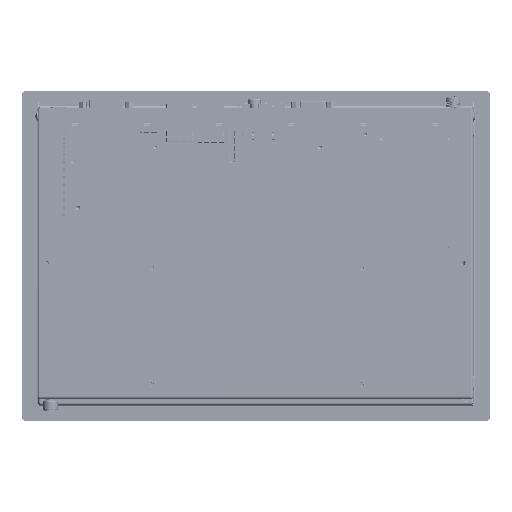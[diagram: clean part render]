
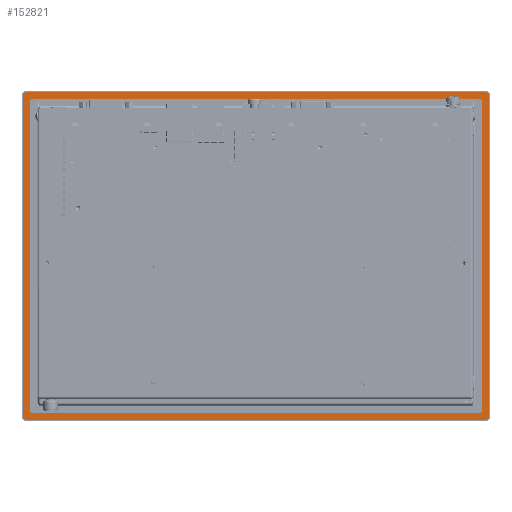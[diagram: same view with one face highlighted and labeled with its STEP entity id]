
A CAD part, front view. The second image highlights one B-rep face of the part: STEP entity #152821.
In plain terms, the highlighted planar face has unit normal (0, -1, 0).
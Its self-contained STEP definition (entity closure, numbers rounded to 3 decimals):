
#4720 = DIRECTION ( 'NONE',  ( -1., 0., 0. ) ) ;
#8256 = VECTOR ( 'NONE', #352208, 1000. ) ;
#14096 = EDGE_CURVE ( 'NONE', #96230, #76708, #340170, .T. ) ;
#60387 = CARTESIAN_POINT ( 'NONE',  ( -162.5, 0.5, -109. ) ) ;
#62388 = VERTEX_POINT ( 'NONE', #471969 ) ;
#66878 = CIRCLE ( 'NONE', #105146, 1. ) ;
#73734 = CARTESIAN_POINT ( 'NONE',  ( -159.5, 0.5, 115. ) ) ;
#75661 = CIRCLE ( 'NONE', #737921, 1. ) ;
#75851 = VERTEX_POINT ( 'NONE', #191438 ) ;
#76708 = VERTEX_POINT ( 'NONE', #175290 ) ;
#80631 = ORIENTED_EDGE ( 'NONE', *, *, #275251, .F. ) ;
#83807 = CARTESIAN_POINT ( 'NONE',  ( -162.5, 0.5, 121. ) ) ;
#86904 = VERTEX_POINT ( 'NONE', #394944 ) ;
#91783 = AXIS2_PLACEMENT_3D ( 'NONE', #60387, #673187, #301436 ) ;
#96230 = VERTEX_POINT ( 'NONE', #224740 ) ;
#104605 = DIRECTION ( 'NONE',  ( 0., 0., 1. ) ) ;
#105146 = AXIS2_PLACEMENT_3D ( 'NONE', #548703, #491696, #120217 ) ;
#116483 = CARTESIAN_POINT ( 'NONE',  ( 158.5, 0.5, 115. ) ) ;
#117572 = DIRECTION ( 'NONE',  ( 0., 0., 1. ) ) ;
#118538 = EDGE_CURVE ( 'NONE', #618070, #86904, #684649, .T. ) ;
#120217 = DIRECTION ( 'NONE',  ( 0., 0., 1. ) ) ;
#121489 = CARTESIAN_POINT ( 'NONE',  ( -158.5, 0.5, -105. ) ) ;
#122716 = CARTESIAN_POINT ( 'NONE',  ( 162.5, 0.5, 121. ) ) ;
#131905 = VECTOR ( 'NONE', #668370, 1000. ) ;
#133997 = CARTESIAN_POINT ( 'NONE',  ( 162.5, 0.5, -111. ) ) ;
#134767 = ORIENTED_EDGE ( 'NONE', *, *, #235238, .F. ) ;
#138748 = PLANE ( 'NONE',  #514246 ) ;
#143863 = DIRECTION ( 'NONE',  ( 0., 0., -1. ) ) ;
#149320 = EDGE_CURVE ( 'NONE', #150023, #75851, #761743, .T. ) ;
#150023 = VERTEX_POINT ( 'NONE', #331447 ) ;
#152821 = ADVANCED_FACE ( 'NONE', ( #563966, #282079 ), #138748, .T. ) ;
#163956 = ORIENTED_EDGE ( 'NONE', *, *, #403384, .F. ) ;
#175290 = CARTESIAN_POINT ( 'NONE',  ( -162.5, 0.5, -111. ) ) ;
#182380 = ORIENTED_EDGE ( 'NONE', *, *, #239661, .F. ) ;
#187100 = ORIENTED_EDGE ( 'NONE', *, *, #590378, .F. ) ;
#191438 = CARTESIAN_POINT ( 'NONE',  ( 159.5, 0.5, 115. ) ) ;
#197361 = DIRECTION ( 'NONE',  ( 0., -1., 0. ) ) ;
#201009 = CARTESIAN_POINT ( 'NONE',  ( 0., 0.5, 0. ) ) ;
#202709 = CARTESIAN_POINT ( 'NONE',  ( 158.5, 0.5, 116. ) ) ;
#212632 = CARTESIAN_POINT ( 'NONE',  ( 164.5, 0.5, -109. ) ) ;
#217638 = ORIENTED_EDGE ( 'NONE', *, *, #487833, .F. ) ;
#224740 = CARTESIAN_POINT ( 'NONE',  ( 162.5, 0.5, -111. ) ) ;
#235238 = EDGE_CURVE ( 'NONE', #62388, #518872, #332645, .T. ) ;
#239661 = EDGE_CURVE ( 'NONE', #587083, #245976, #489863, .T. ) ;
#242998 = CARTESIAN_POINT ( 'NONE',  ( 162.5, 0.5, -109. ) ) ;
#245976 = VERTEX_POINT ( 'NONE', #212632 ) ;
#252546 = EDGE_CURVE ( 'NONE', #343523, #374891, #496196, .T. ) ;
#254013 = DIRECTION ( 'NONE',  ( 0., -1., 0. ) ) ;
#254328 = CARTESIAN_POINT ( 'NONE',  ( -159.5, 0.5, -105. ) ) ;
#260333 = ORIENTED_EDGE ( 'NONE', *, *, #14096, .F. ) ;
#260451 = CARTESIAN_POINT ( 'NONE',  ( 158.5, 0.5, -105. ) ) ;
#266360 = CIRCLE ( 'NONE', #568337, 1. ) ;
#275251 = EDGE_CURVE ( 'NONE', #465652, #394398, #638582, .T. ) ;
#282079 = FACE_OUTER_BOUND ( 'NONE', #468795, .T. ) ;
#301436 = DIRECTION ( 'NONE',  ( 0., 0., -1. ) ) ;
#309855 = ORIENTED_EDGE ( 'NONE', *, *, #759802, .F. ) ;
#311324 = DIRECTION ( 'NONE',  ( 1., 0., 0. ) ) ;
#315321 = VECTOR ( 'NONE', #733017, 1000. ) ;
#315932 = DIRECTION ( 'NONE',  ( 0., 1., 0. ) ) ;
#320855 = DIRECTION ( 'NONE',  ( -1., 0., 0. ) ) ;
#322500 = CARTESIAN_POINT ( 'NONE',  ( -164.5, 0.5, -109. ) ) ;
#324380 = EDGE_CURVE ( 'NONE', #518872, #587083, #364672, .T. ) ;
#325583 = DIRECTION ( 'NONE',  ( -1., 0., 0. ) ) ;
#331447 = CARTESIAN_POINT ( 'NONE',  ( 159.5, 0.5, -105. ) ) ;
#332645 = LINE ( 'NONE', #83807, #779592 ) ;
#340170 = LINE ( 'NONE', #133997, #544296 ) ;
#343523 = VERTEX_POINT ( 'NONE', #322500 ) ;
#345032 = DIRECTION ( 'NONE',  ( 1., 0., 0. ) ) ;
#350217 = EDGE_CURVE ( 'NONE', #354107, #768028, #568487, .T. ) ;
#352208 = DIRECTION ( 'NONE',  ( -1., 0., 0. ) ) ;
#352821 = AXIS2_PLACEMENT_3D ( 'NONE', #242998, #315932, #373102 ) ;
#354107 = VERTEX_POINT ( 'NONE', #73734 ) ;
#356352 = CARTESIAN_POINT ( 'NONE',  ( -159.5, 0.5, 115. ) ) ;
#362775 = AXIS2_PLACEMENT_3D ( 'NONE', #116483, #197361, #311324 ) ;
#363789 = ORIENTED_EDGE ( 'NONE', *, *, #118538, .F. ) ;
#364672 = CIRCLE ( 'NONE', #662273, 2. ) ;
#373102 = DIRECTION ( 'NONE',  ( 1., 0., 0. ) ) ;
#374891 = VERTEX_POINT ( 'NONE', #790514 ) ;
#394398 = VERTEX_POINT ( 'NONE', #730636 ) ;
#394944 = CARTESIAN_POINT ( 'NONE',  ( 158.5, 0.5, -106. ) ) ;
#398908 = VECTOR ( 'NONE', #117572, 1000. ) ;
#403384 = EDGE_CURVE ( 'NONE', #245976, #96230, #773168, .T. ) ;
#409690 = ORIENTED_EDGE ( 'NONE', *, *, #350217, .F. ) ;
#414478 = ORIENTED_EDGE ( 'NONE', *, *, #538263, .F. ) ;
#429292 = CARTESIAN_POINT ( 'NONE',  ( -164.5, 0.5, -109. ) ) ;
#431636 = CARTESIAN_POINT ( 'NONE',  ( 164.5, 0.5, 119. ) ) ;
#434023 = EDGE_LOOP ( 'NONE', ( #363789, #187100, #409690, #414478, #80631, #217638, #483502, #599417 ) ) ;
#446591 = CARTESIAN_POINT ( 'NONE',  ( 159.5, 0.5, -105. ) ) ;
#463986 = EDGE_CURVE ( 'NONE', #86904, #150023, #266360, .T. ) ;
#465652 = VERTEX_POINT ( 'NONE', #202709 ) ;
#468795 = EDGE_LOOP ( 'NONE', ( #182380, #740769, #134767, #309855, #792457, #510734, #260333, #163956 ) ) ;
#471969 = CARTESIAN_POINT ( 'NONE',  ( -162.5, 0.5, 121. ) ) ;
#483502 = ORIENTED_EDGE ( 'NONE', *, *, #149320, .F. ) ;
#487833 = EDGE_CURVE ( 'NONE', #75851, #465652, #715294, .T. ) ;
#489863 = LINE ( 'NONE', #491616, #315321 ) ;
#491616 = CARTESIAN_POINT ( 'NONE',  ( 164.5, 0.5, 119. ) ) ;
#491696 = DIRECTION ( 'NONE',  ( 0., -1., 0. ) ) ;
#496196 = LINE ( 'NONE', #429292, #398908 ) ;
#510734 = ORIENTED_EDGE ( 'NONE', *, *, #587099, .F. ) ;
#514246 = AXIS2_PLACEMENT_3D ( 'NONE', #201009, #697398, #325583 ) ;
#518872 = VERTEX_POINT ( 'NONE', #122716 ) ;
#538263 = EDGE_CURVE ( 'NONE', #394398, #354107, #66878, .T. ) ;
#541074 = CARTESIAN_POINT ( 'NONE',  ( 162.5, 0.5, 119. ) ) ;
#544296 = VECTOR ( 'NONE', #320855, 1000. ) ;
#548703 = CARTESIAN_POINT ( 'NONE',  ( -158.5, 0.5, 115. ) ) ;
#551903 = DIRECTION ( 'NONE',  ( 0., 1., 0. ) ) ;
#554555 = CARTESIAN_POINT ( 'NONE',  ( -162.5, 0.5, 119. ) ) ;
#560760 = DIRECTION ( 'NONE',  ( 0., 0., 1. ) ) ;
#563966 = FACE_BOUND ( 'NONE', #434023, .T. ) ;
#568337 = AXIS2_PLACEMENT_3D ( 'NONE', #260451, #694522, #143863 ) ;
#568487 = LINE ( 'NONE', #356352, #131905 ) ;
#587083 = VERTEX_POINT ( 'NONE', #431636 ) ;
#587099 = EDGE_CURVE ( 'NONE', #76708, #343523, #713057, .T. ) ;
#590378 = EDGE_CURVE ( 'NONE', #768028, #618070, #75661, .T. ) ;
#596857 = VECTOR ( 'NONE', #560760, 1000. ) ;
#599417 = ORIENTED_EDGE ( 'NONE', *, *, #463986, .F. ) ;
#602905 = CARTESIAN_POINT ( 'NONE',  ( -158.5, 0.5, -106. ) ) ;
#606767 = VECTOR ( 'NONE', #345032, 1000. ) ;
#614302 = DIRECTION ( 'NONE',  ( -1., 0., 0. ) ) ;
#618070 = VERTEX_POINT ( 'NONE', #602905 ) ;
#638582 = LINE ( 'NONE', #661563, #8256 ) ;
#661563 = CARTESIAN_POINT ( 'NONE',  ( 158.5, 0.5, 116. ) ) ;
#662273 = AXIS2_PLACEMENT_3D ( 'NONE', #541074, #804285, #104605 ) ;
#668370 = DIRECTION ( 'NONE',  ( 0., 0., -1. ) ) ;
#673187 = DIRECTION ( 'NONE',  ( 0., 1., 0. ) ) ;
#684649 = LINE ( 'NONE', #716714, #606767 ) ;
#694522 = DIRECTION ( 'NONE',  ( 0., -1., 0. ) ) ;
#697398 = DIRECTION ( 'NONE',  ( 0., -1., 0. ) ) ;
#706620 = AXIS2_PLACEMENT_3D ( 'NONE', #554555, #551903, #614302 ) ;
#712737 = DIRECTION ( 'NONE',  ( 1., 0., 0. ) ) ;
#713057 = CIRCLE ( 'NONE', #91783, 2. ) ;
#715294 = CIRCLE ( 'NONE', #362775, 1. ) ;
#716714 = CARTESIAN_POINT ( 'NONE',  ( -158.5, 0.5, -106. ) ) ;
#726577 = CIRCLE ( 'NONE', #706620, 2. ) ;
#730636 = CARTESIAN_POINT ( 'NONE',  ( -158.5, 0.5, 116. ) ) ;
#733017 = DIRECTION ( 'NONE',  ( 0., 0., -1. ) ) ;
#737921 = AXIS2_PLACEMENT_3D ( 'NONE', #121489, #254013, #4720 ) ;
#740769 = ORIENTED_EDGE ( 'NONE', *, *, #324380, .F. ) ;
#759802 = EDGE_CURVE ( 'NONE', #374891, #62388, #726577, .T. ) ;
#761743 = LINE ( 'NONE', #446591, #596857 ) ;
#768028 = VERTEX_POINT ( 'NONE', #254328 ) ;
#773168 = CIRCLE ( 'NONE', #352821, 2. ) ;
#779592 = VECTOR ( 'NONE', #712737, 1000. ) ;
#790514 = CARTESIAN_POINT ( 'NONE',  ( -164.5, 0.5, 119. ) ) ;
#792457 = ORIENTED_EDGE ( 'NONE', *, *, #252546, .F. ) ;
#804285 = DIRECTION ( 'NONE',  ( 0., 1., 0. ) ) ;
